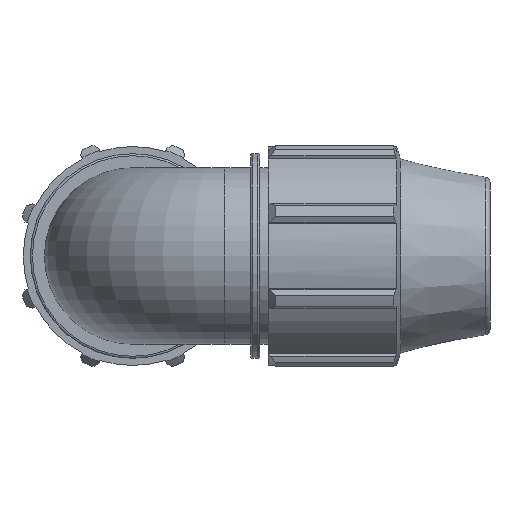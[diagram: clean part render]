
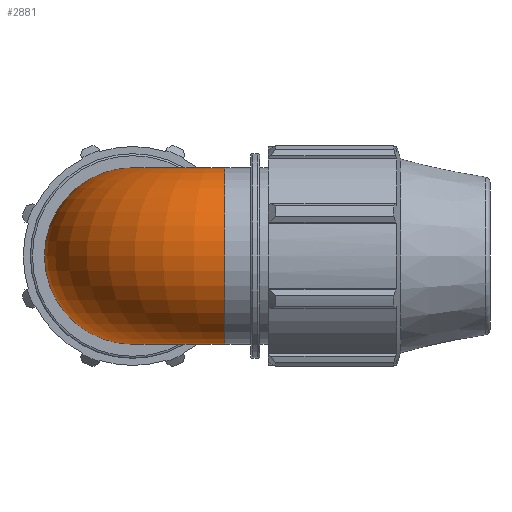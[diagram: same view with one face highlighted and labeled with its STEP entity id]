
A CAD part, front view. The second image highlights one B-rep face of the part: STEP entity #2881.
In plain terms, the highlighted toroidal (fillet/blend) face has major radius 18.796 mm and minor radius 18.002 mm.
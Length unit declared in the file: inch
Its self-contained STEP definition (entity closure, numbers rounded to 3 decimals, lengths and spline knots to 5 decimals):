
#559=TOROIDAL_SURFACE('',#3058,0.74,0.70875);
#581=FACE_OUTER_BOUND('',#731,.T.);
#731=EDGE_LOOP('',(#1797,#1798,#1799,#1800,#1801,#1802,#1803));
#895=CIRCLE('',#3059,0.70875);
#896=CIRCLE('',#3060,0.70875);
#897=CIRCLE('',#3061,0.03125);
#898=CIRCLE('',#3062,0.70875);
#899=CIRCLE('',#3063,0.70875);
#900=CIRCLE('',#3064,0.70875);
#1057=VERTEX_POINT('',#4211);
#1058=VERTEX_POINT('',#4212);
#1059=VERTEX_POINT('',#4215);
#1060=VERTEX_POINT('',#4217);
#1061=VERTEX_POINT('',#4219);
#1357=EDGE_CURVE('',#1057,#1058,#895,.T.);
#1358=EDGE_CURVE('',#1058,#1057,#896,.T.);
#1359=EDGE_CURVE('',#1058,#1059,#897,.T.);
#1360=EDGE_CURVE('',#1060,#1059,#898,.T.);
#1361=EDGE_CURVE('',#1061,#1060,#899,.T.);
#1362=EDGE_CURVE('',#1059,#1061,#900,.T.);
#1797=ORIENTED_EDGE('',*,*,#1357,.F.);
#1798=ORIENTED_EDGE('',*,*,#1358,.F.);
#1799=ORIENTED_EDGE('',*,*,#1359,.T.);
#1800=ORIENTED_EDGE('',*,*,#1360,.F.);
#1801=ORIENTED_EDGE('',*,*,#1361,.F.);
#1802=ORIENTED_EDGE('',*,*,#1362,.F.);
#1803=ORIENTED_EDGE('',*,*,#1359,.F.);
#2881=ADVANCED_FACE('',(#581),#559,.T.);
#3058=AXIS2_PLACEMENT_3D('',#4210,#3383,#3384);
#3059=AXIS2_PLACEMENT_3D('',#4213,#3385,#3386);
#3060=AXIS2_PLACEMENT_3D('',#4214,#3387,#3388);
#3061=AXIS2_PLACEMENT_3D('',#4216,#3389,#3390);
#3062=AXIS2_PLACEMENT_3D('',#4218,#3391,#3392);
#3063=AXIS2_PLACEMENT_3D('',#4220,#3393,#3394);
#3064=AXIS2_PLACEMENT_3D('',#4221,#3395,#3396);
#3383=DIRECTION('center_axis',(0.,0.,-1.));
#3384=DIRECTION('ref_axis',(-1.,0.,0.));
#3385=DIRECTION('center_axis',(0.,1.,0.));
#3386=DIRECTION('ref_axis',(0.,0.,-1.));
#3387=DIRECTION('center_axis',(0.,1.,0.));
#3388=DIRECTION('ref_axis',(0.,0.,-1.));
#3389=DIRECTION('center_axis',(0.,0.,1.));
#3390=DIRECTION('ref_axis',(-1.,0.,0.));
#3391=DIRECTION('center_axis',(1.,0.,0.));
#3392=DIRECTION('ref_axis',(0.,0.,-1.));
#3393=DIRECTION('center_axis',(1.,0.,0.));
#3394=DIRECTION('ref_axis',(0.,0.,-1.));
#3395=DIRECTION('center_axis',(1.,0.,0.));
#3396=DIRECTION('ref_axis',(0.,0.,-1.));
#4210=CARTESIAN_POINT('Origin',(0.74,0.74,0.));
#4211=CARTESIAN_POINT('',(0.,0.74,-0.70875));
#4212=CARTESIAN_POINT('',(0.70875,0.74,0.));
#4213=CARTESIAN_POINT('Origin',(0.,0.74,0.));
#4214=CARTESIAN_POINT('Origin',(0.,0.74,0.));
#4215=CARTESIAN_POINT('',(0.74,0.70875,0.));
#4216=CARTESIAN_POINT('Origin',(0.74,0.74,0.));
#4217=CARTESIAN_POINT('',(0.74,0.,-0.70875));
#4218=CARTESIAN_POINT('Origin',(0.74,0.,0.));
#4219=CARTESIAN_POINT('',(0.74,-0.70875,0.));
#4220=CARTESIAN_POINT('Origin',(0.74,0.,0.));
#4221=CARTESIAN_POINT('Origin',(0.74,0.,0.));
